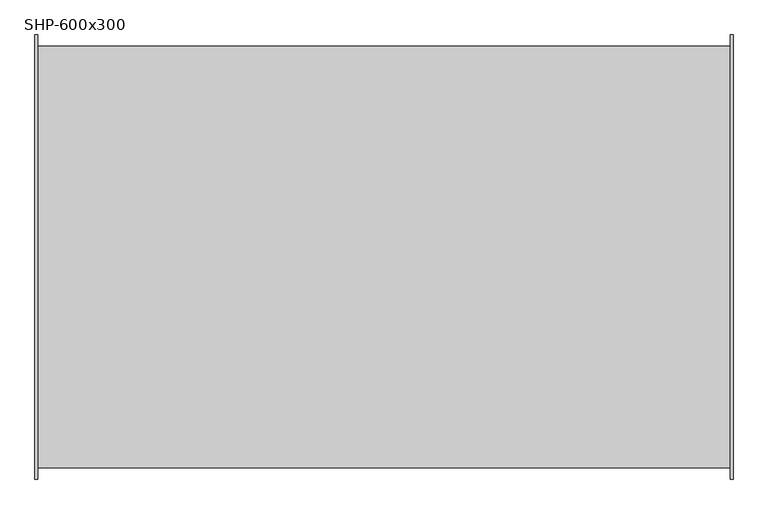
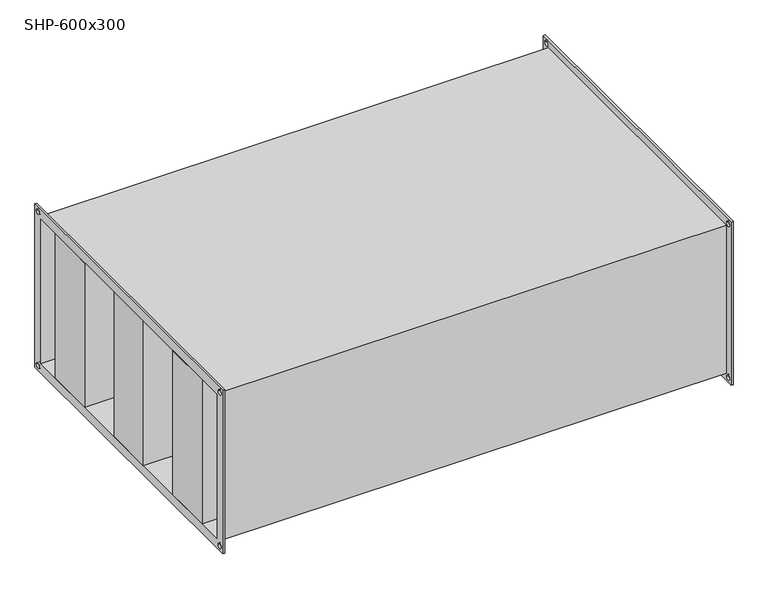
"""IFC4 building model written with IfcOpenShell, lengths in millimetres: damper geometry, СВ_Шумоглушитель_КанальныйПрямоугольный_200-1000_SHP : SHP-600x300."""

from ifc_helpers import new_model, si_unit, frame, origin, place, context, project, spatial, polyline, circle_curve, outline, extrude, source, transform, mapped, element, save
from ifc_brep_helpers import plane_surface, revolved_surface, advanced_brep


def shp_600x300_ced5555b(model_context):
    return source(origin(), model_context, "Body", "SolidModel", [
        extrude(outline(polyline([(502.5, 250.0), (502.5, 150.0), (-502.5, 150.0), (-502.5, 250.0), (502.5, 250.0)])), frame((0.0, 0.0, -150.0), z_axis=(0.0, 0.0, 1.0), x_axis=(1.0, 0.0, 0.0)), (0.0, 0.0, 1.0), 300.0),
        extrude(outline(polyline([(502.5, 50.0), (502.5, -50.0), (-502.5, -50.0), (-502.5, 50.0), (502.5, 50.0)])), frame((0.0, 0.0, -150.0), z_axis=(0.0, 0.0, 1.0), x_axis=(1.0, 0.0, 0.0)), (0.0, 0.0, 1.0), 300.0),
        extrude(outline(polyline([(502.5, -150.0), (502.5, -250.0), (-502.5, -250.0), (-502.5, -150.0), (502.5, -150.0)])), frame((0.0, 0.0, -150.0), z_axis=(0.0, 0.0, 1.0), x_axis=(1.0, 0.0, 0.0)), (0.0, 0.0, 1.0), 300.0),
        advanced_brep(
        [(498.5, -304.0, 154.0), (-498.5, -304.0, 154.0), (-498.5, -304.0, -154.0), (498.5, -304.0, -154.0), (-498.5, 304.0, -154.0), (498.5, 304.0, -154.0), (-498.5, 304.0, 154.0), (498.5, 304.0, 154.0), (-502.5, -320.0, 170.0), (-502.5, 320.0, 170.0), (-502.5, 320.0, -170.0), (-502.5, -320.0, -170.0), (-502.5, -300.0, 150.0), (-502.5, -300.0, -150.0), (-502.5, 300.0, -150.0), (-502.5, 300.0, 150.0), (-502.5, 305.0, 160.0), (-502.5, 315.0, 160.0), (-502.5, -315.0, 160.0), (-502.5, -305.0, 160.0), (-502.5, -315.0, -160.0), (-502.5, -305.0, -160.0), (-502.5, 305.0, -160.0), (-502.5, 315.0, -160.0), (-498.5, -320.0, 170.0), (-498.5, -320.0, -170.0), (-498.5, 320.0, -170.0), (-498.5, 320.0, 170.0), (-498.5, 315.0, 160.0), (-498.5, 305.0, 160.0), (-498.5, -305.0, 160.0), (-498.5, -315.0, 160.0), (-498.5, -305.0, -160.0), (-498.5, -315.0, -160.0), (-498.5, 315.0, -160.0), (-498.5, 305.0, -160.0), (498.5, 320.0, 170.0), (498.5, 320.0, -170.0), (498.5, -320.0, -170.0), (498.5, -320.0, 170.0), (498.5, 305.0, 160.0), (498.5, 315.0, 160.0), (498.5, -315.0, 160.0), (498.5, -305.0, 160.0), (498.5, -315.0, -160.0), (498.5, -305.0, -160.0), (498.5, 305.0, -160.0), (498.5, 315.0, -160.0), (502.5, 320.0, 170.0), (502.5, -320.0, 170.0), (502.5, -320.0, -170.0), (502.5, 320.0, -170.0), (502.5, 300.0, 150.0), (502.5, 300.0, -150.0), (502.5, -300.0, -150.0), (502.5, -300.0, 150.0), (502.5, 315.0, 160.0), (502.5, 305.0, 160.0), (502.5, -305.0, 160.0), (502.5, -315.0, 160.0), (502.5, -305.0, -160.0), (502.5, -315.0, -160.0), (502.5, 315.0, -160.0), (502.5, 305.0, -160.0)],
        [
            (0, 1),
            (1, 2),
            (2, 3),
            (3, 0),
            (2, 4),
            (4, 5),
            (5, 3),
            (4, 6),
            (6, 7),
            (7, 5),
            (0, 7),
            (6, 1),
            (8, 9),
            (9, 10),
            (10, 11),
            (11, 8),
            (12, 13),
            (13, 14),
            (14, 15),
            (15, 12),
            (16, 17, circle_curve(frame((-502.5, 310.0, 160.0), z_axis=(1.0, 0.0, 0.0), x_axis=(0.0, 1.0, 0.0)), 5.0)),
            (17, 16, circle_curve(frame((-502.5, 310.0, 160.0), z_axis=(1.0, 0.0, 0.0), x_axis=(0.0, 1.0, 0.0)), 5.0)),
            (18, 19, circle_curve(frame((-502.5, -310.0, 160.0), z_axis=(1.0, 0.0, 0.0), x_axis=(0.0, 1.0, 0.0)), 5.0)),
            (19, 18, circle_curve(frame((-502.5, -310.0, 160.0), z_axis=(1.0, 0.0, 0.0), x_axis=(0.0, 1.0, 0.0)), 5.0)),
            (20, 21, circle_curve(frame((-502.5, -310.0, -160.0), z_axis=(1.0, 0.0, 0.0), x_axis=(0.0, 1.0, 0.0)), 5.0)),
            (21, 20, circle_curve(frame((-502.5, -310.0, -160.0), z_axis=(1.0, 0.0, 0.0), x_axis=(0.0, 1.0, 0.0)), 5.0)),
            (22, 23, circle_curve(frame((-502.5, 310.0, -160.0), z_axis=(1.0, 0.0, 0.0), x_axis=(0.0, 1.0, 0.0)), 5.0)),
            (23, 22, circle_curve(frame((-502.5, 310.0, -160.0), z_axis=(1.0, 0.0, 0.0), x_axis=(0.0, 1.0, 0.0)), 5.0)),
            (24, 25),
            (25, 26),
            (26, 27),
            (27, 24),
            (28, 29, circle_curve(frame((-498.5, 310.0, 160.0), z_axis=(-1.0, 0.0, 0.0), x_axis=(0.0, 1.0, 0.0)), 5.0)),
            (29, 28, circle_curve(frame((-498.5, 310.0, 160.0), z_axis=(-1.0, 0.0, 0.0), x_axis=(0.0, 1.0, 0.0)), 5.0)),
            (30, 31, circle_curve(frame((-498.5, -310.0, 160.0), z_axis=(-1.0, 0.0, 0.0), x_axis=(0.0, 1.0, 0.0)), 5.0)),
            (31, 30, circle_curve(frame((-498.5, -310.0, 160.0), z_axis=(-1.0, 0.0, 0.0), x_axis=(0.0, 1.0, 0.0)), 5.0)),
            (32, 33, circle_curve(frame((-498.5, -310.0, -160.0), z_axis=(-1.0, 0.0, 0.0), x_axis=(0.0, 1.0, 0.0)), 5.0)),
            (33, 32, circle_curve(frame((-498.5, -310.0, -160.0), z_axis=(-1.0, 0.0, 0.0), x_axis=(0.0, 1.0, 0.0)), 5.0)),
            (34, 35, circle_curve(frame((-498.5, 310.0, -160.0), z_axis=(-1.0, 0.0, 0.0), x_axis=(0.0, 1.0, 0.0)), 5.0)),
            (35, 34, circle_curve(frame((-498.5, 310.0, -160.0), z_axis=(-1.0, 0.0, 0.0), x_axis=(0.0, 1.0, 0.0)), 5.0)),
            (11, 25),
            (24, 8),
            (10, 26),
            (9, 27),
            (36, 37),
            (37, 38),
            (38, 39),
            (39, 36),
            (40, 41, circle_curve(frame((498.5, 310.0, 160.0), z_axis=(1.0, 0.0, 0.0), x_axis=(0.0, 1.0, 0.0)), 5.0)),
            (41, 40, circle_curve(frame((498.5, 310.0, 160.0), z_axis=(1.0, 0.0, 0.0), x_axis=(0.0, 1.0, 0.0)), 5.0)),
            (42, 43, circle_curve(frame((498.5, -310.0, 160.0), z_axis=(1.0, 0.0, 0.0), x_axis=(0.0, 1.0, 0.0)), 5.0)),
            (43, 42, circle_curve(frame((498.5, -310.0, 160.0), z_axis=(1.0, 0.0, 0.0), x_axis=(0.0, 1.0, 0.0)), 5.0)),
            (44, 45, circle_curve(frame((498.5, -310.0, -160.0), z_axis=(1.0, 0.0, 0.0), x_axis=(0.0, 1.0, 0.0)), 5.0)),
            (45, 44, circle_curve(frame((498.5, -310.0, -160.0), z_axis=(1.0, 0.0, 0.0), x_axis=(0.0, 1.0, 0.0)), 5.0)),
            (46, 47, circle_curve(frame((498.5, 310.0, -160.0), z_axis=(1.0, 0.0, 0.0), x_axis=(0.0, 1.0, 0.0)), 5.0)),
            (47, 46, circle_curve(frame((498.5, 310.0, -160.0), z_axis=(1.0, 0.0, 0.0), x_axis=(0.0, 1.0, 0.0)), 5.0)),
            (48, 49),
            (49, 50),
            (50, 51),
            (51, 48),
            (52, 53),
            (53, 54),
            (54, 55),
            (55, 52),
            (56, 57, circle_curve(frame((502.5, 310.0, 160.0), z_axis=(-1.0, 0.0, 0.0), x_axis=(0.0, 1.0, 0.0)), 5.0)),
            (57, 56, circle_curve(frame((502.5, 310.0, 160.0), z_axis=(-1.0, 0.0, 0.0), x_axis=(0.0, 1.0, 0.0)), 5.0)),
            (58, 59, circle_curve(frame((502.5, -310.0, 160.0), z_axis=(-1.0, 0.0, 0.0), x_axis=(0.0, 1.0, 0.0)), 5.0)),
            (59, 58, circle_curve(frame((502.5, -310.0, 160.0), z_axis=(-1.0, 0.0, 0.0), x_axis=(0.0, 1.0, 0.0)), 5.0)),
            (60, 61, circle_curve(frame((502.5, -310.0, -160.0), z_axis=(-1.0, 0.0, 0.0), x_axis=(0.0, 1.0, 0.0)), 5.0)),
            (61, 60, circle_curve(frame((502.5, -310.0, -160.0), z_axis=(-1.0, 0.0, 0.0), x_axis=(0.0, 1.0, 0.0)), 5.0)),
            (62, 63, circle_curve(frame((502.5, 310.0, -160.0), z_axis=(-1.0, 0.0, 0.0), x_axis=(0.0, 1.0, 0.0)), 5.0)),
            (63, 62, circle_curve(frame((502.5, 310.0, -160.0), z_axis=(-1.0, 0.0, 0.0), x_axis=(0.0, 1.0, 0.0)), 5.0)),
            (39, 49),
            (48, 36),
            (38, 50),
            (37, 51),
            (15, 52),
            (55, 12),
            (14, 53),
            (13, 54),
            (16, 29),
            (28, 17),
            (40, 57),
            (56, 41),
            (18, 31),
            (30, 19),
            (42, 59),
            (58, 43),
            (20, 33),
            (32, 21),
            (44, 61),
            (60, 45),
            (22, 35),
            (34, 23),
            (46, 63),
            (62, 47),
        ],
        [
            plane_surface(frame((498.5, -304.0, 154.0), z_axis=(0.0, -1.0, 0.0), x_axis=(-1.0, 0.0, 0.0))),
            plane_surface(frame((498.5, -304.0, -154.0), z_axis=(0.0, 0.0, -1.0), x_axis=(-1.0, 0.0, 0.0))),
            plane_surface(frame((498.5, 304.0, -154.0), z_axis=(0.0, 1.0, 0.0), x_axis=(-1.0, 0.0, 0.0))),
            plane_surface(frame((498.5, 304.0, 154.0), z_axis=(0.0, 0.0, 1.0), x_axis=(-1.0, 0.0, 0.0))),
            plane_surface(frame((-502.5, -320.0, 170.0), z_axis=(-1.0, 0.0, 0.0), x_axis=(0.0, 0.0, 1.0))),
            plane_surface(frame((-498.5, -320.0, 170.0), z_axis=(1.0, 0.0, 0.0), x_axis=(0.0, 0.0, -1.0))),
            plane_surface(frame((-498.5, -320.0, 170.0), z_axis=(0.0, -1.0, 0.0), x_axis=(-1.0, 0.0, 0.0))),
            plane_surface(frame((-498.5, -320.0, -170.0), z_axis=(0.0, 0.0, -1.0), x_axis=(-1.0, 0.0, 0.0))),
            plane_surface(frame((-498.5, 320.0, -170.0), z_axis=(0.0, 1.0, 0.0), x_axis=(-1.0, 0.0, 0.0))),
            plane_surface(frame((-498.5, 320.0, 170.0), z_axis=(0.0, 0.0, 1.0), x_axis=(-1.0, 0.0, 0.0))),
            plane_surface(frame((498.5, 300.0, -150.0), z_axis=(-1.0, 0.0, 0.0), x_axis=(0.0, 0.0, 1.0))),
            plane_surface(frame((502.5, 300.0, -150.0), z_axis=(1.0, 0.0, 0.0), x_axis=(0.0, 0.0, -1.0))),
            plane_surface(frame((502.5, 320.0, 170.0), z_axis=(0.0, 0.0, 1.0), x_axis=(-1.0, 0.0, 0.0))),
            plane_surface(frame((502.5, -320.0, 170.0), z_axis=(0.0, -1.0, 0.0), x_axis=(-1.0, 0.0, 0.0))),
            plane_surface(frame((502.5, -320.0, -170.0), z_axis=(0.0, 0.0, -1.0), x_axis=(-1.0, 0.0, 0.0))),
            plane_surface(frame((502.5, 320.0, -170.0), z_axis=(0.0, 1.0, 0.0), x_axis=(-1.0, 0.0, 0.0))),
            plane_surface(frame((-498.5, -300.0, 150.0), z_axis=(0.0, 0.0, -1.0), x_axis=(-1.0, 0.0, 0.0))),
            plane_surface(frame((-498.5, 300.0, 150.0), z_axis=(0.0, -1.0, 0.0), x_axis=(-1.0, 0.0, 0.0))),
            plane_surface(frame((-498.5, 300.0, -150.0), z_axis=(0.0, 0.0, 1.0), x_axis=(-1.0, 0.0, 0.0))),
            plane_surface(frame((-498.5, -300.0, -150.0), z_axis=(0.0, 1.0, 0.0), x_axis=(-1.0, 0.0, 0.0))),
            revolved_surface(polyline([(-498.5, 315.0, 160.0), (-502.5, 315.0, 160.0)]), (-502.5, 310.0, 160.0), (1.0, 0.0, 0.0)),
            revolved_surface(polyline([(502.5, 315.0, 160.0), (498.5, 315.0, 160.0)]), (-502.5, 310.0, 160.0), (1.0, 0.0, 0.0)),
            revolved_surface(polyline([(-498.5, -305.0, 160.0), (-502.5, -305.0, 160.0)]), (0.0, -310.0, 160.0), (1.0, 0.0, 0.0)),
            revolved_surface(polyline([(502.5, -305.0, 160.0), (498.5, -305.0, 160.0)]), (0.0, -310.0, 160.0), (1.0, 0.0, 0.0)),
            revolved_surface(polyline([(-498.5, -305.0, -160.0), (-502.5, -305.0, -160.0)]), (0.0, -310.0, -160.0), (1.0, 0.0, 0.0)),
            revolved_surface(polyline([(502.5, -305.0, -160.0), (498.5, -305.0, -160.0)]), (0.0, -310.0, -160.0), (1.0, 0.0, 0.0)),
            revolved_surface(polyline([(-498.5, 315.0, -160.0), (-502.5, 315.0, -160.0)]), (0.0, 310.0, -160.0), (1.0, 0.0, 0.0)),
            revolved_surface(polyline([(502.5, 315.0, -160.0), (498.5, 315.0, -160.0)]), (0.0, 310.0, -160.0), (1.0, 0.0, 0.0)),
        ],
        [
            (0, [[1, 2, 3, 4]]),
            (1, [[-3, 5, 6, 7]]),
            (2, [[-6, 8, 9, 10]]),
            (3, [[-1, 11, -9, 12]]),
            (4, [[13, 14, 15, 16], [17, 18, 19, 20], [21, 22], [23, 24], [25, 26], [27, 28]]),
            (5, [[29, 30, 31, 32], [-2, -12, -8, -5], [33, 34], [35, 36], [37, 38], [39, 40]]),
            (6, [[-16, 41, -29, 42]]),
            (7, [[-15, 43, -30, -41]]),
            (8, [[-14, 44, -31, -43]]),
            (9, [[-13, -42, -32, -44]]),
            (10, [[45, 46, 47, 48], [-4, -7, -10, -11], [49, 50], [51, 52], [53, 54], [55, 56]]),
            (11, [[57, 58, 59, 60], [61, 62, 63, 64], [65, 66], [67, 68], [69, 70], [71, 72]]),
            (12, [[-48, 73, -57, 74]]),
            (13, [[-47, 75, -58, -73]]),
            (14, [[-46, 76, -59, -75]]),
            (15, [[-45, -74, -60, -76]]),
            (16, [[-20, 77, -64, 78]]),
            (17, [[-77, -19, 79, -61]]),
            (18, [[-79, -18, 80, -62]]),
            (19, [[-80, -17, -78, -63]]),
            (20, [[81, -33, 82, -21]]),
            (21, [[83, -65, 84, -49]]),
            (20, [[-81, -22, -82, -34]]),
            (21, [[-83, -50, -84, -66]]),
            (22, [[85, -35, 86, -23]]),
            (23, [[87, -67, 88, -51]]),
            (22, [[-85, -24, -86, -36]]),
            (23, [[-87, -52, -88, -68]]),
            (24, [[89, -37, 90, -25]]),
            (25, [[91, -69, 92, -53]]),
            (24, [[-89, -26, -90, -38]]),
            (25, [[-91, -54, -92, -70]]),
            (26, [[93, -39, 94, -27]]),
            (27, [[95, -71, 96, -55]]),
            (26, [[-93, -28, -94, -40]]),
            (27, [[-95, -56, -96, -72]]),
        ],
    ),
    ])


if __name__ == "__main__":
    model = new_model("IFC4")
    model_context = context("Model", 3, world=origin())
    ifc_project = project(units=[si_unit("LENGTHUNIT", "METRE", prefix="MILLI")], contexts=[model_context])
    site = spatial("IfcSite", under=ifc_project)
    building = spatial("IfcBuilding", under=site)
    placement = place(None, origin())
    shp_600x300_shape = shp_600x300_ced5555b(model_context)
    element("IfcDamper", 1, ObjectType="СВ_Шумоглушитель_КанальныйПрямоугольный_200-1000_SHP : SHP-600x300", at=placement, inside=building, context=model_context, shape_type="MappedRepresentation", body=[
        mapped(shp_600x300_shape, transform((0.0, 0.0, 0.0), x_axis=(1.0, 0.0, 0.0), y_axis=(0.0, 1.0, 0.0), z_axis=(0.0, 0.0, 1.0))),
    ])
    save(model, "model.ifc")
